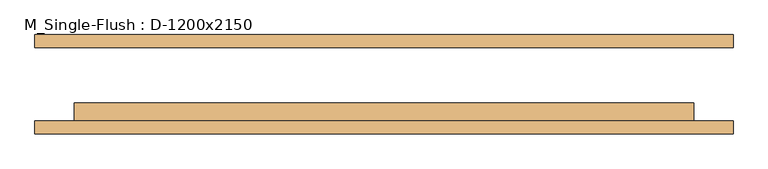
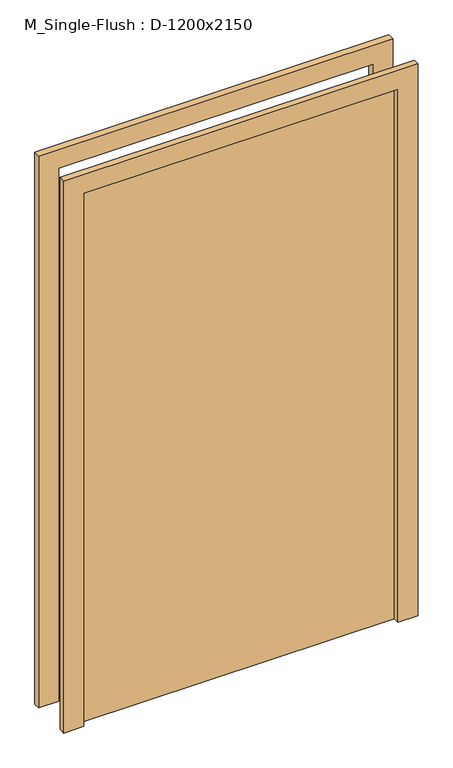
"""IFC4 building model written with IfcOpenShell, lengths in millimetres: door geometry, M_Single-Flush : D-1200x2150."""

from ifc_helpers import new_model, si_unit, frame, origin, origin_with_axes, place, context, project, spatial, polyline, outline, extrude, source, transform, mapped, element, save


def m_single_flush_d_1200x2150_085a39eb(model_context):
    return source(origin(), model_context, "Body", "SweptSolid", [
        extrude(outline(polyline([(2226.0, -676.0), (0.0, -676.0), (0.0, -600.0), (2150.0, -600.0), (2150.0, 600.0), (0.0, 600.0), (0.0, 676.0), (2226.0, 676.0), (2226.0, -676.0)])), frame((0.0, -96.0, 0.0), z_axis=(0.0, 1.0, 0.0), x_axis=(0.0, 0.0, 1.0)), (0.0, 0.0, 1.0), 25.0),
        extrude(outline(polyline([(2226.0, 676.0), (2226.0, -676.0), (0.0, -676.0), (0.0, -600.0), (2150.0, -600.0), (2150.0, 600.0), (0.0, 600.0), (0.0, 676.0), (2226.0, 676.0)])), frame((0.0, 71.0, 0.0), z_axis=(0.0, 1.0, 0.0), x_axis=(0.0, 0.0, 1.0)), (0.0, 0.0, 1.0), 25.0),
        extrude(outline(polyline([(600.0, -36.0), (600.0, -71.0), (-600.0, -71.0), (-600.0, -36.0), (600.0, -36.0)])), origin_with_axes(), (0.0, 0.0, 1.0), 2150.0),
    ])


if __name__ == "__main__":
    model = new_model("IFC4")
    model_context = context("Model", 3, world=origin())
    ifc_project = project(units=[si_unit("LENGTHUNIT", "METRE", prefix="MILLI")], contexts=[model_context])
    site = spatial("IfcSite", under=ifc_project)
    building = spatial("IfcBuilding", under=site)
    placement = place(None, origin())
    m_single_flush_d_1200x2150_shape = m_single_flush_d_1200x2150_085a39eb(model_context)
    element("IfcDoor", 1, ObjectType="M_Single-Flush : D-1200x2150", at=placement, inside=building, context=model_context, shape_type="MappedRepresentation", body=[
        mapped(m_single_flush_d_1200x2150_shape, transform((0.0, 0.0, 0.0), x_axis=(1.0, 0.0, 0.0), y_axis=(0.0, 1.0, 0.0), z_axis=(0.0, 0.0, 1.0))),
    ])
    save(model, "model.ifc")
